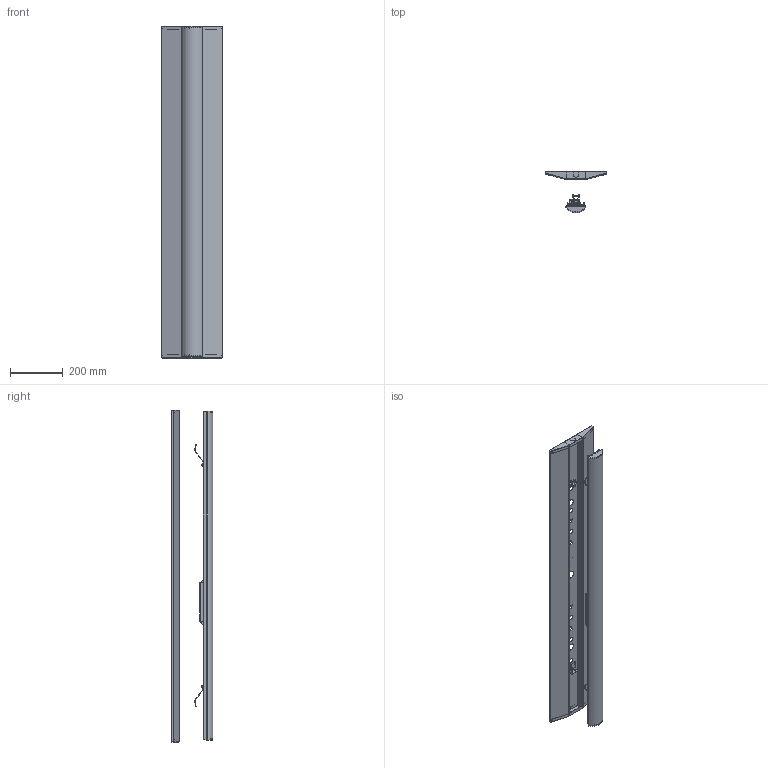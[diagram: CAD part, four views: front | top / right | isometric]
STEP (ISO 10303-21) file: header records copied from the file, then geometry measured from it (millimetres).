
FILE_DESCRIPTION (( 'STEP AP214' ), '1' );
FILE_NAME ('230_1.STEP', '2025-04-20T07:12:27', ( '' ), ( '' ), 'SwSTEP 2.0', 'SolidWorks 2014', '' );
FILE_SCHEMA (( 'AUTOMOTIVE_DESIGN' ));
Length unit declared in the file: millimetre
Products named in the file (17): spring_1 v2; 電源ケース; Component5; 230_1; ライトベース; 230_組; Component2; Base_組; 引掛け金具; 拡散カバー組; ばね組_1 v2; 230_サイドカバー; PC拡散; 230_ベース; サイドプレート
Assembly tree (20 placements, depth 6):
  230_1
    230_組
      230_ベース
      230_サイドカバー  x2
      引掛け金具  x2
    Base_組
      ライトベース
      電源ケース
      拡散カバー組
        サイドプレート  x2
        PC拡散
      ばね組_1 v2  x2
        ばね組_1 v2
          Component2
          spring_1 v2
            spring_1 v2
            Component5
Bounding box: 230 x 157.26 x 1260.5 mm (x, y, z)
Volume: 371777.1 mm3; surface area: 1472195.7 mm2
Topology: 20 solids, 20 shells, 1003 faces, 2888 edges, 1899 vertices
Faces by surface type: plane 649, cylinder 290, sphere 24, torus 20, bspline 20
Entity records: 26452 total; most frequent: CARTESIAN_POINT 8216, ORIENTED_EDGE 3788, DIRECTION 3529, EDGE_CURVE 1894, LINE 1383, VECTOR 1383, VERTEX_POINT 1249, AXIS2_PLACEMENT_3D 1073
